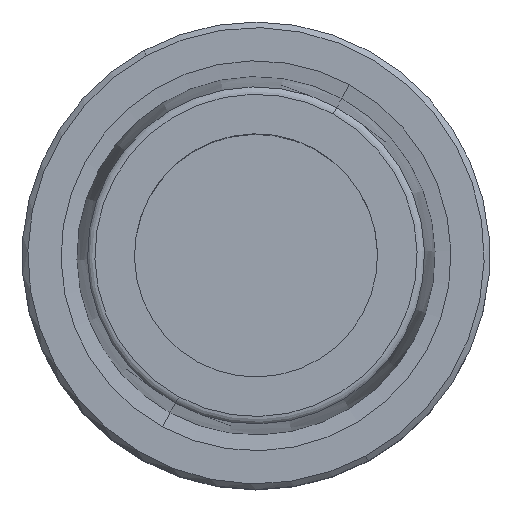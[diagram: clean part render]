
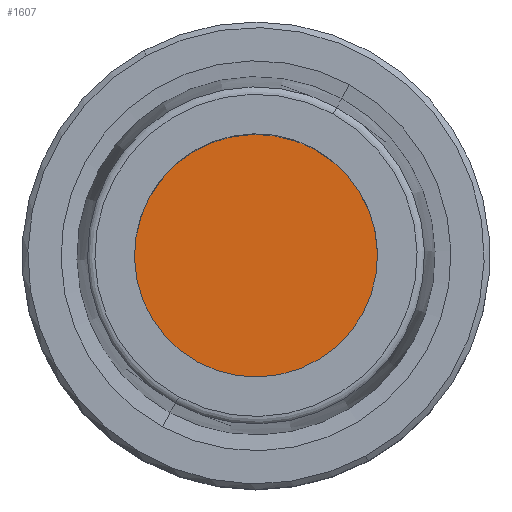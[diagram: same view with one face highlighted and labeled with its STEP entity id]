
A CAD part, top view. The second image highlights one B-rep face of the part: STEP entity #1607.
In plain terms, the highlighted planar face has unit normal (0, 0, 1).
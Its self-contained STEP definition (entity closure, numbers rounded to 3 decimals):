
#1562=AXIS2_PLACEMENT_3D('Circle Axis2P3D',#1560,#1561,$) ;
#1588=AXIS2_PLACEMENT_3D('Circle Axis2P3D',#1586,#1587,$) ;
#1601=AXIS2_PLACEMENT_3D('Plane Axis2P3D',#1598,#1599,#1600) ;
#1560=CARTESIAN_POINT('Axis2P3D Location',(0.,0.,-10.)) ;
#1564=CARTESIAN_POINT('Vertex',(-6.233,-11.409,-10.)) ;
#1566=CARTESIAN_POINT('Vertex',(6.233,11.409,-10.)) ;
#1586=CARTESIAN_POINT('Axis2P3D Location',(0.,0.,-10.)) ;
#1598=CARTESIAN_POINT('Axis2P3D Location',(0.,-11.8,-10.)) ;
#1561=DIRECTION('Axis2P3D Direction',(0.,0.,-1.)) ;
#1587=DIRECTION('Axis2P3D Direction',(0.,0.,-1.)) ;
#1599=DIRECTION('Axis2P3D Direction',(0.,0.,-1.)) ;
#1600=DIRECTION('Axis2P3D XDirection',(-1.,0.,0.)) ;
#1604=ORIENTED_EDGE('',*,*,#1568,.T.) ;
#1605=ORIENTED_EDGE('',*,*,#1590,.T.) ;
#1607=ADVANCED_FACE('NOCUT',(#1606),#1602,.F.) ;
#1563=CIRCLE('generated circle',#1562,13.) ;
#1589=CIRCLE('generated circle',#1588,13.) ;
#1568=EDGE_CURVE('',#1565,#1567,#1563,.F.) ;
#1590=EDGE_CURVE('',#1567,#1565,#1589,.F.) ;
#1603=EDGE_LOOP('',(#1604,#1605)) ;
#1606=FACE_OUTER_BOUND('',#1603,.T.) ;
#1602=PLANE('',#1601) ;
#1565=VERTEX_POINT('',#1564) ;
#1567=VERTEX_POINT('',#1566) ;
